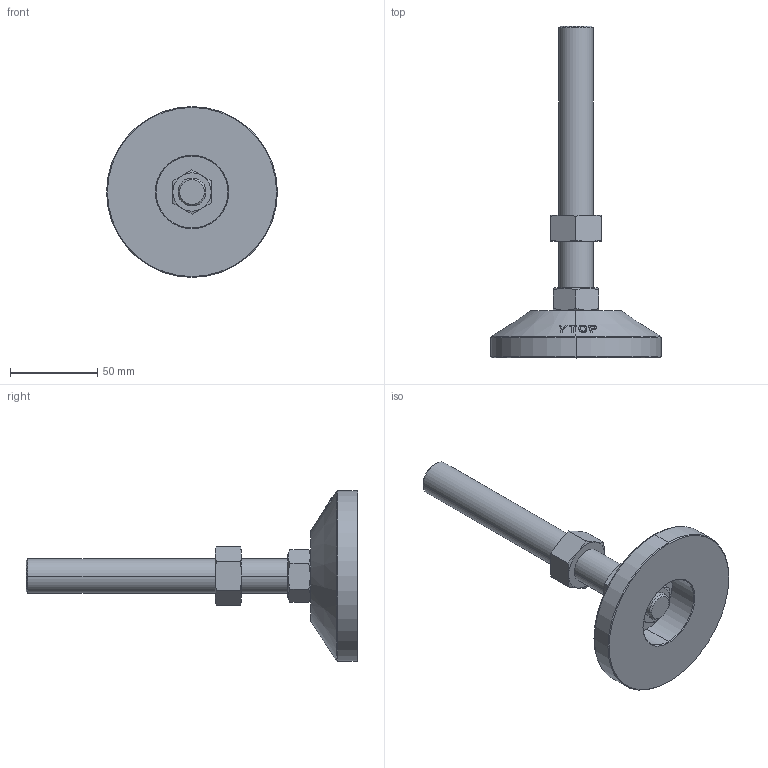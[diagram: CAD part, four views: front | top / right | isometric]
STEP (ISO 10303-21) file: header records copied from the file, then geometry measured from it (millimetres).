
FILE_DESCRIPTION (( 'STEP AP203' ), '1' );
FILE_NAME ('M-100-20150-S.STEP', '2020-09-10T07:01:42', ( '' ), ( '' ), 'SwSTEP 2.0', 'SolidWorks 2016', '' );
FILE_SCHEMA (( 'CONFIG_CONTROL_DESIGN' ));
Length unit declared in the file: millimetre
Products named in the file (5): 脚垫调节六角螺母M20; 不锈钢双头螺杆M20系列_M20X150; M-100-20150-S; M-100-1褐菜 ; 脚垫锁紧六角薄螺母M16
Assembly tree (4 placements, depth 2):
  M-100-20150-S
    M-100-1褐菜 
    不锈钢双头螺杆M20系列_M20X150
    脚垫锁紧六角薄螺母M16
    脚垫调节六角螺母M20
Bounding box: 98 x 190.3 x 98 mm (x, y, z)
Volume: 200887.5 mm3; surface area: 39235.3 mm2
Topology: 4 solids, 4 shells, 143 faces, 333 edges, 206 vertices
Faces by surface type: cone 62, bspline 38, plane 29, cylinder 14
Entity records: 8896 total; most frequent: CARTESIAN_POINT 5525, ORIENTED_EDGE 666, DIRECTION 457, EDGE_CURVE 333, VERTEX_POINT 206, AXIS2_PLACEMENT_3D 196, B_SPLINE_CURVE_WITH_KNOTS 184, EDGE_LOOP 157
